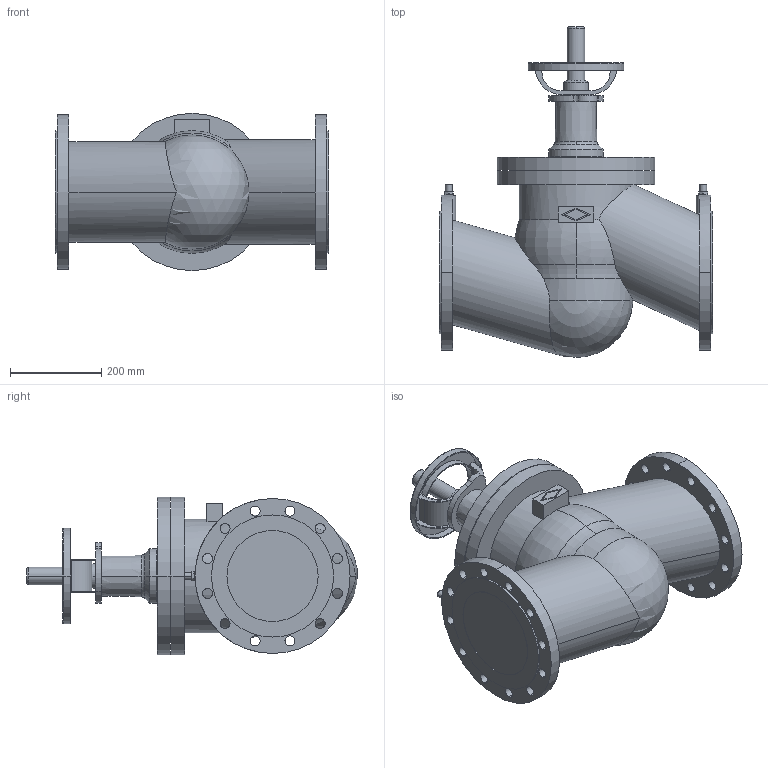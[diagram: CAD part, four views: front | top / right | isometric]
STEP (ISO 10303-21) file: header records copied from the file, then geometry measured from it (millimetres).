
FILE_DESCRIPTION( ( '' ), '1' );
FILE_NAME( 'F:/DE-SHS/TB/OR/04-Sonstiges/daten/files_3d/12020/c000000220.stp', '2015-04-28T06:37:02', ( '' ), ( '' ), ' ', ' ', ' ' );
FILE_SCHEMA( ( 'CONFIG_CONTROL_DESIGN' ) );
Length unit declared in the file: millimetre
Products named in the file (1): 1
Bounding box: 600 x 725.49 x 345 mm (x, y, z)
Volume: 42816230.3 mm3; surface area: 1301974.6 mm2
Topology: 1 solids, 1 shells, 221 faces, 595 edges, 394 vertices
Faces by surface type: cylinder 129, plane 70, torus 15, cone 6, sphere 1
Entity records: 7827 total; most frequent: CARTESIAN_POINT 1901, DIRECTION 1303, ORIENTED_EDGE 1186, EDGE_CURVE 593, AXIS2_PLACEMENT_3D 522, VERTEX_POINT 394, EDGE_LOOP 293, CIRCLE 292
